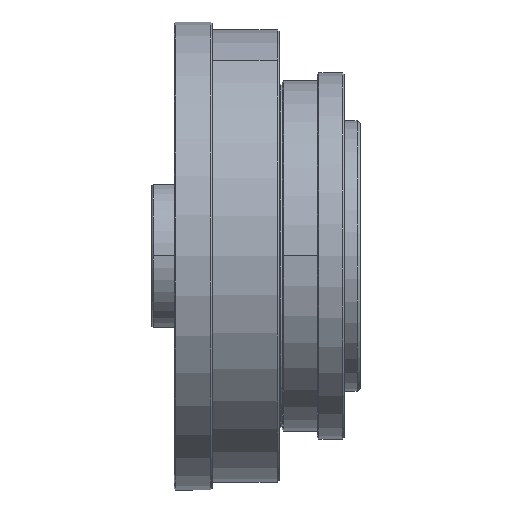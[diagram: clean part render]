
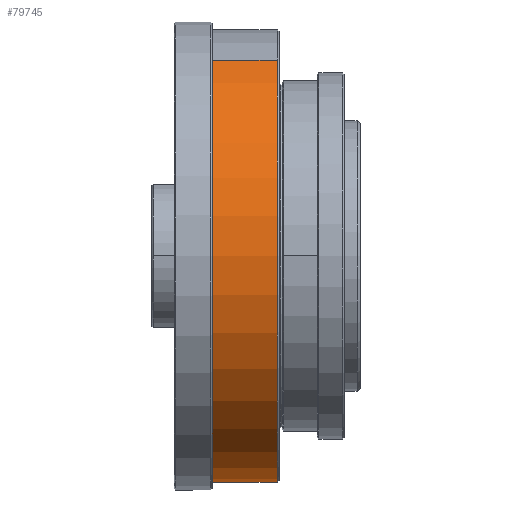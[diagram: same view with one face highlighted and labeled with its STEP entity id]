
A CAD part, top view. The second image highlights one B-rep face of the part: STEP entity #79745.
In plain terms, the highlighted cylindrical face has radius 71 mm (diameter 142 mm), a partial arc.
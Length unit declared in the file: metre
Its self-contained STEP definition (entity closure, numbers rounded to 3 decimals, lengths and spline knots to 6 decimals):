
#43 = CARTESIAN_POINT ( 'NONE',  ( 0.060742, 0.061488, 0.0355 ) ) ;
#903 = EDGE_LOOP ( 'NONE', ( #4256, #13629, #35945, #62521 ) ) ;
#3502 = CARTESIAN_POINT ( 'NONE',  ( 0.109666, -0.061488, -0.0355 ) ) ;
#4256 = ORIENTED_EDGE ( 'NONE', *, *, #55090, .T. ) ;
#4544 = VERTEX_POINT ( 'NONE', #21759 ) ;
#10680 = LINE ( 'NONE', #3502, #79829 ) ;
#11609 = CARTESIAN_POINT ( 'NONE',  ( 0.060742, 0., 0. ) ) ;
#12999 = CIRCLE ( 'NONE', #30563, 0.071 ) ;
#13373 = CIRCLE ( 'NONE', #67355, 0.071 ) ;
#13629 = ORIENTED_EDGE ( 'NONE', *, *, #64044, .T. ) ;
#16245 = VERTEX_POINT ( 'NONE', #43 ) ;
#21759 = CARTESIAN_POINT ( 'NONE',  ( 0.060742, -0.061488, -0.0355 ) ) ;
#23515 = DIRECTION ( 'NONE',  ( 0., 0.866, 0.5 ) ) ;
#23942 = EDGE_CURVE ( 'NONE', #16245, #45844, #31509, .T. ) ;
#26167 = VERTEX_POINT ( 'NONE', #60670 ) ;
#26457 = AXIS2_PLACEMENT_3D ( 'NONE', #72126, #78477, #83558 ) ;
#26480 = CYLINDRICAL_SURFACE ( 'NONE', #26457, 0.071 ) ;
#30563 = AXIS2_PLACEMENT_3D ( 'NONE', #11609, #77109, #32274 ) ;
#31509 = LINE ( 'NONE', #76755, #64271 ) ;
#32274 = DIRECTION ( 'NONE',  ( 0., 0.866, 0.5 ) ) ;
#35945 = ORIENTED_EDGE ( 'NONE', *, *, #44609, .T. ) ;
#42544 = DIRECTION ( 'NONE',  ( -1., 0., 0. ) ) ;
#44592 = DIRECTION ( 'NONE',  ( 1., 0., 0. ) ) ;
#44609 = EDGE_CURVE ( 'NONE', #26167, #45844, #13373, .T. ) ;
#45844 = VERTEX_POINT ( 'NONE', #81443 ) ;
#49695 = CARTESIAN_POINT ( 'NONE',  ( 0.082942, 0., 0. ) ) ;
#55090 = EDGE_CURVE ( 'NONE', #16245, #4544, #12999, .T. ) ;
#60670 = CARTESIAN_POINT ( 'NONE',  ( 0.082942, -0.061488, -0.0355 ) ) ;
#62521 = ORIENTED_EDGE ( 'NONE', *, *, #23942, .F. ) ;
#64044 = EDGE_CURVE ( 'NONE', #4544, #26167, #10680, .T. ) ;
#64271 = VECTOR ( 'NONE', #44592, 1. ) ;
#67355 = AXIS2_PLACEMENT_3D ( 'NONE', #49695, #42544, #23515 ) ;
#68581 = DIRECTION ( 'NONE',  ( 1., 0., 0. ) ) ;
#71697 = FACE_OUTER_BOUND ( 'NONE', #903, .T. ) ;
#72126 = CARTESIAN_POINT ( 'NONE',  ( 0.109666, 0., 0. ) ) ;
#76755 = CARTESIAN_POINT ( 'NONE',  ( 0.109666, 0.061488, 0.0355 ) ) ;
#77109 = DIRECTION ( 'NONE',  ( 1., 0., 0. ) ) ;
#78477 = DIRECTION ( 'NONE',  ( 1., 0., 0. ) ) ;
#79745 = ADVANCED_FACE ( 'NONE', ( #71697 ), #26480, .T. ) ;
#79829 = VECTOR ( 'NONE', #68581, 1. ) ;
#81443 = CARTESIAN_POINT ( 'NONE',  ( 0.082942, 0.061488, 0.0355 ) ) ;
#83558 = DIRECTION ( 'NONE',  ( 0., 0.866, 0.5 ) ) ;
